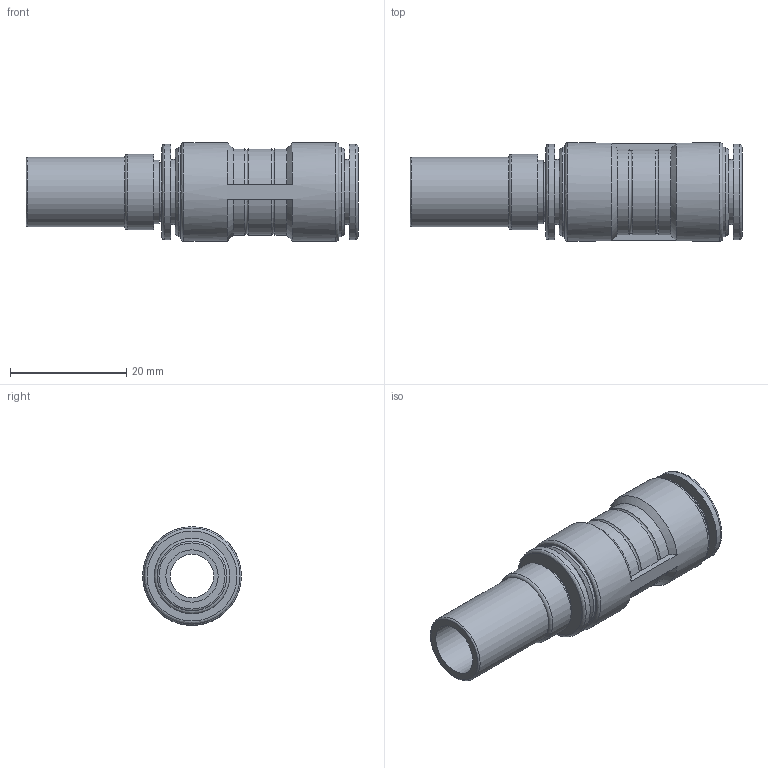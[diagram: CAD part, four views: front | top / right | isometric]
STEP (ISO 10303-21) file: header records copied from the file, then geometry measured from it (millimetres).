
FILE_DESCRIPTION((''),'2;1');
FILE_NAME('E:\2012年度板ﾃﾞｰﾀ\CHIYODA 3D-CAD DATA (Inventor 11)\TOUCH CONNECTOR FIVE (Inventor 11)\[21] REDUCER\[07] FR10-12RC FR10-12RCW.stp','2012-03-21T16:33:07',('kazuhiro.t'),(''),'Autodesk Inventor 11','Autodesk Inventor 11','');
FILE_SCHEMA(('AUTOMOTIVE_DESIGN { 1 0 10303 214 1 1 1 1 }'));
Length unit declared in the file: millimetre
Products named in the file (1): [07] FR10-12RC FR10-12RCW
Bounding box: 57.2 x 17 x 17 mm (x, y, z)
Volume: 6108 mm3; surface area: 5109 mm2
Topology: 1 solids, 1 shells, 55 faces, 112 edges, 72 vertices
Faces by surface type: bspline 21, cylinder 13, plane 12, torus 6, cone 3
Full cylindrical faces by diameter (mm): 7.5 x1, 10 x1, 11 x1, 11.2 x1, 12 x1, 13 x1, 15.5 x1, 16.5 x1, 17 x1
Entity records: 1806 total; most frequent: CARTESIAN_POINT 799, DIRECTION 192, ORIENTED_EDGE 170, EDGE_LOOP 94, AXIS2_PLACEMENT_3D 88, EDGE_CURVE 85, VERTEX_POINT 69, FACE_OUTER_BOUND 55
